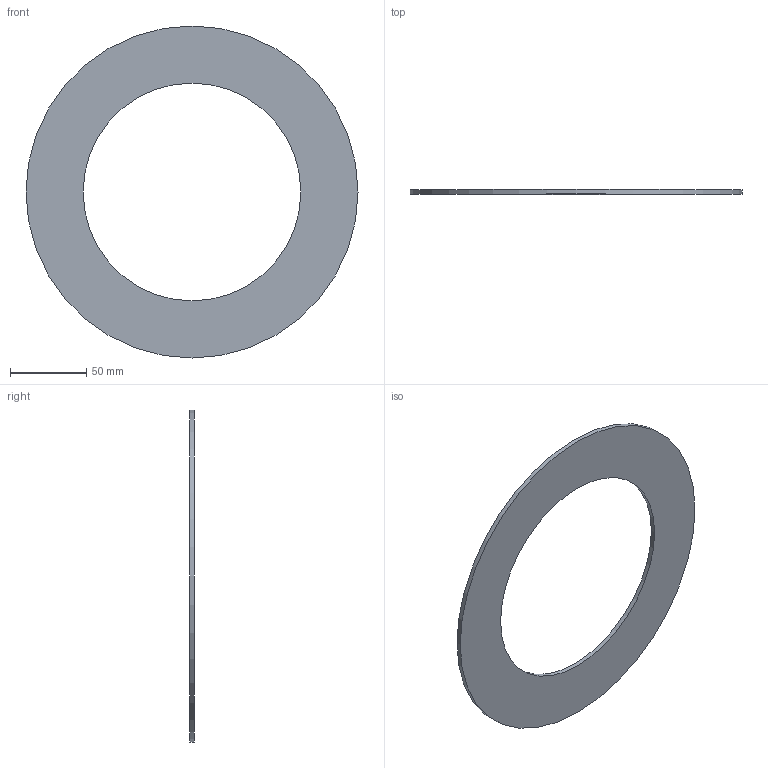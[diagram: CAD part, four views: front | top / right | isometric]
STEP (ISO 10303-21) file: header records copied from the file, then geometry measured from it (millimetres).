
FILE_DESCRIPTION(/* description */ ('Unknown'),/* implementation_level */ '2;1');
FILE_NAME(/* name */ 'GUA.160B',/* time_stamp */ '2021-04-01T12:24:23+02:00',/* author */ ('Unknown'),/* organization */ ('Unknown'),/* preprocessor_version */ 'ST-DEVELOPER v16.7',/* originating_system */ 'Solid Edge',/* authorisation */ 'Unknown');
FILE_SCHEMA (('AUTOMOTIVE_DESIGN {1 0 10303 214 3 1 1}'));
Length unit declared in the file: millimetre
Products named in the file (1): GUA.160B
Bounding box: 218 x 3 x 218 mm (x, y, z)
Volume: 63794 mm3; surface area: 45931.7 mm2
Topology: 1 solids, 1 shells, 4 faces, 6 edges, 4 vertices
Faces by surface type: cylinder 2, plane 2
Full cylindrical faces by diameter (mm): 143 x1, 218 x1
Entity records: 118 total; most frequent: DIRECTION 18, CARTESIAN_POINT 13, AXIS2_PLACEMENT_3D 9, ORIENTED_EDGE 8, EDGE_LOOP 8, FACE_BOUND 8, EDGE_CURVE 4, VERTEX_POINT 4
